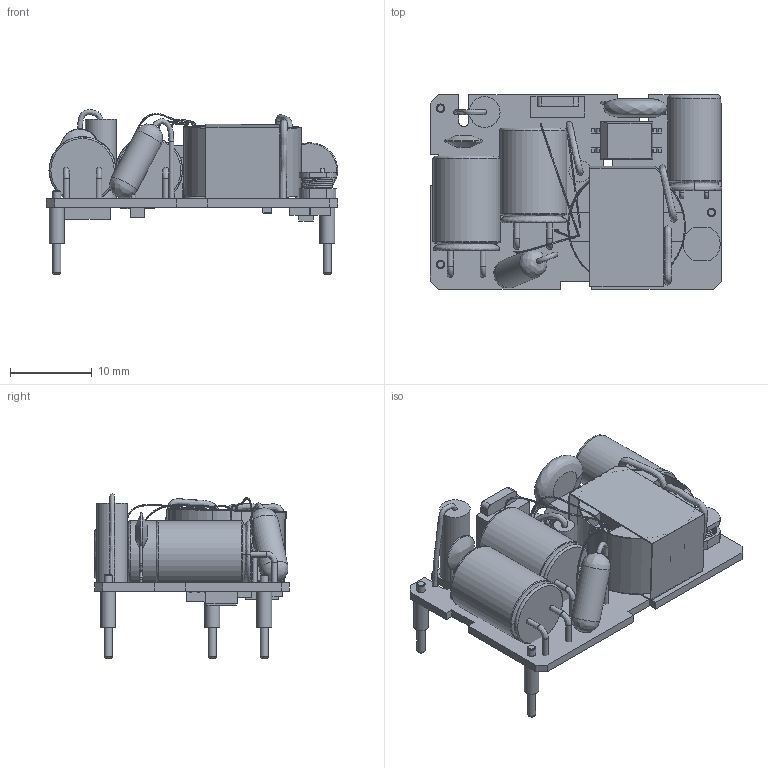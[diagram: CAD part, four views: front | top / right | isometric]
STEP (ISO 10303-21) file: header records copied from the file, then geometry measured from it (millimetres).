
FILE_DESCRIPTION (( 'STEP AP214' ), '1' );
FILE_NAME ('ECE10-P SPEC.STEP', '2013-03-19T16:36:48', ( 'dcook' ), ( '' ), 'SwSTEP 2.0', 'SolidWorks 2013', '' );
FILE_SCHEMA (( 'AUTOMOTIVE_DESIGN' ));
Length unit declared in the file: inch
Products named in the file (19): wire2; wire3; wire4; wire5; wire6; tape 1; ECE10 PCBｬO_000909_ｦwｦ]; ECE10-P SPEC; OP1; IND1; C1; ECE10r2; ECE010 PIN_000805; ft1; CY4_000802; c2; c3; TX1; wire1
Assembly tree (22 placements, depth 3):
  ECE10-P SPEC
    ECE10 PCBｬO_000909_ｦwｦ]
    TX1
      tape 1
      wire6
      wire5
      wire4
      wire3
      wire2
      wire1
    c3
    c2
    CY4_000802
    ft1
    ECE010 PIN_000805  x4
    ECE10r2
    C1  x2
    IND1
    OP1
Bounding box: 35.56 x 23.75 x 20.08 mm (x, y, z)
Volume: 4468.2 mm3; surface area: 6505.1 mm2
Topology: 21 solids, 21 shells, 368 faces, 883 edges, 579 vertices
Faces by surface type: plane 233, cylinder 72, bspline 59, cone 4
Full cylindrical faces by diameter (mm): 0.36 x8, 0.5 x4, 0.7 x8, 1 x8, 1.041 x4, 1.8 x4, 2.64 x1, 3 x1, 3.5 x1, 3.75 x1, 6.46 x1, 8.18 x2, 14.13 x1
Entity records: 17834 total; most frequent: CARTESIAN_POINT 5608, ORIENTED_EDGE 1438, DIRECTION 1367, EDGE_CURVE 719, VERTEX_POINT 504, VECTOR 503, LINE 503, AXIS2_PLACEMENT_3D 432
